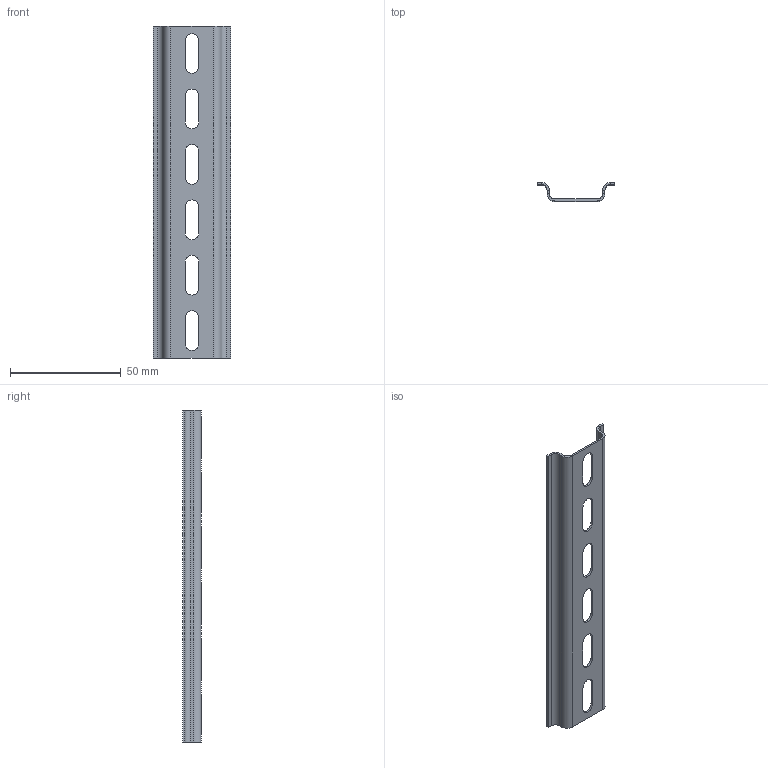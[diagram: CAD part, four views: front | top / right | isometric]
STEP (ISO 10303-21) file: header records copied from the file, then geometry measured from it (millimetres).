
FILE_DESCRIPTION (( 'STEP AP214' ), '1' );
FILE_NAME ('DIN-ðåéêà 150ìì õ 0,1 ìì.STEP', '2025-10-22T11:43:27', ( '' ), ( '' ), 'SwSTEP 2.0', 'SolidWorks 2018', '' );
FILE_SCHEMA (( 'AUTOMOTIVE_DESIGN' ));
Length unit declared in the file: millimetre
Products named in the file (1): DIN-ðåéêà 150ìì õ 0,1 ìì
Bounding box: 35.2 x 8.5 x 150 mm (x, y, z)
Volume: 6145.6 mm3; surface area: 12938.3 mm2
Topology: 1 solids, 1 shells, 68 faces, 166 edges, 100 vertices
Faces by surface type: plane 42, cylinder 26
Entity records: 2024 total; most frequent: DIRECTION 356, CARTESIAN_POINT 335, ORIENTED_EDGE 332, EDGE_CURVE 166, AXIS2_PLACEMENT_3D 121, VECTOR 114, LINE 114, VERTEX_POINT 100
